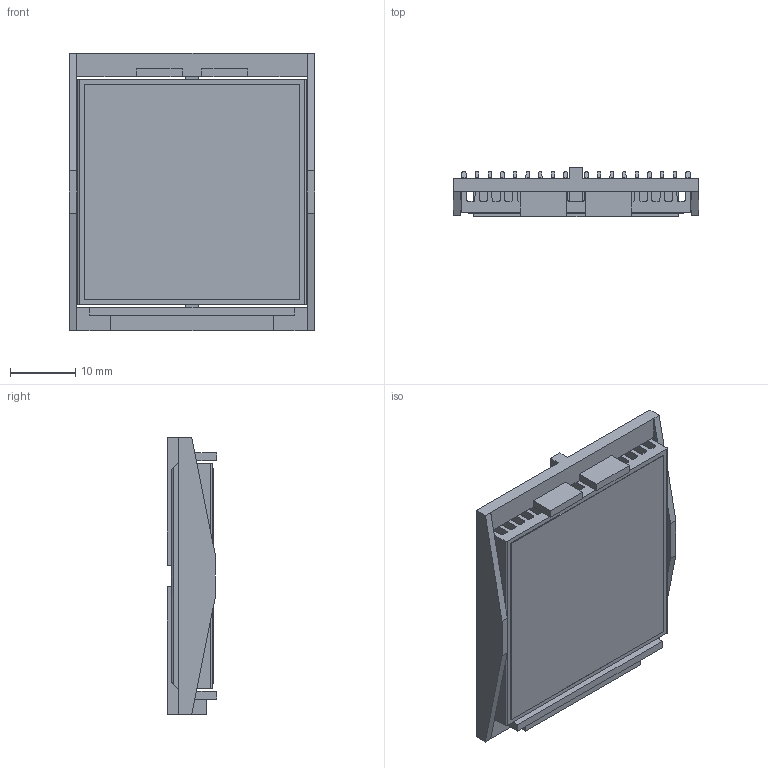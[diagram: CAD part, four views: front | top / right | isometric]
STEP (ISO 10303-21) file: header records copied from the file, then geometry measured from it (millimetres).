
FILE_DESCRIPTION (( 'STEP AP214' ), '1' );
FILE_NAME ('INL35001-6-1.7O.STEP', '2023-02-23T23:53:45', ( '' ), ( '' ), 'SwSTEP 2.0', 'SolidWorks 2020', '' );
FILE_SCHEMA (( 'AUTOMOTIVE_DESIGN' ));
Length unit declared in the file: millimetre
Products named in the file (1): INL35001-6-1.7O
Bounding box: 37.6 x 7.5 x 42.4 mm (x, y, z)
Volume: 5342.5 mm3; surface area: 12619.4 mm2
Topology: 3 solids, 3 shells, 200 faces, 584 edges, 388 vertices
Faces by surface type: plane 146, cylinder 54
Entity records: 8804 total; most frequent: CARTESIAN_POINT 1281, ORIENTED_EDGE 1168, DIRECTION 1022, EDGE_CURVE 584, VECTOR 476, LINE 476, VERTEX_POINT 388, AXIS2_PLACEMENT_3D 273
